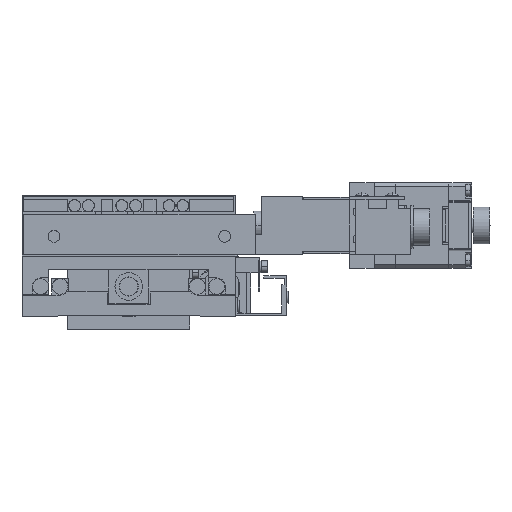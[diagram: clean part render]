
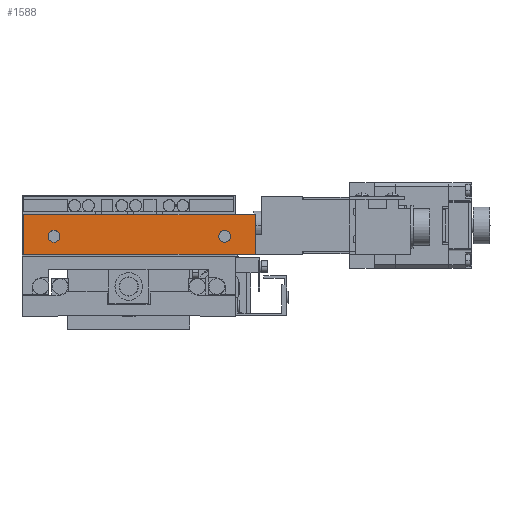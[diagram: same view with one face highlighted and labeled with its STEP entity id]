
A CAD part, left-side view. The second image highlights one B-rep face of the part: STEP entity #1588.
In plain terms, the highlighted planar face has unit normal (-1, 0, 0).
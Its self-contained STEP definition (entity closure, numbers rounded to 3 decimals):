
#1588=ADVANCED_FACE('',(#4048,#4049,#4050),#4051,.F.);
#4048=FACE_BOUND('',#6882,.T.);
#4049=FACE_BOUND('',#6883,.T.);
#4050=FACE_OUTER_BOUND('',#6884,.T.);
#4051=PLANE('',#6885);
#6882=EDGE_LOOP('',(#15496,#15497));
#6883=EDGE_LOOP('',(#15498,#15499));
#6884=EDGE_LOOP('',(#15500,#15501,#15502,#15503));
#6885=AXIS2_PLACEMENT_3D('',#15504,#15505,#15506);
#15496=ORIENTED_EDGE('',*,*,#20727,.T.);
#15497=ORIENTED_EDGE('',*,*,#20689,.T.);
#15498=ORIENTED_EDGE('',*,*,#20728,.T.);
#15499=ORIENTED_EDGE('',*,*,#20693,.T.);
#15500=ORIENTED_EDGE('',*,*,#20709,.T.);
#15501=ORIENTED_EDGE('',*,*,#20729,.F.);
#15502=ORIENTED_EDGE('',*,*,#20714,.F.);
#15503=ORIENTED_EDGE('',*,*,#20725,.T.);
#15504=CARTESIAN_POINT('',(-51.8,-41.5,33.5));
#15505=DIRECTION('',(1.0,0.,0.));
#15506=DIRECTION('',(0.,0.,-1.0));
#20689=EDGE_CURVE('',#25594,#25598,#25600,.T.);
#20693=EDGE_CURVE('',#25602,#25606,#25608,.T.);
#20709=EDGE_CURVE('',#25618,#25638,#25640,.T.);
#20714=EDGE_CURVE('',#25646,#25648,#25649,.T.);
#20725=EDGE_CURVE('',#25646,#25618,#25669,.T.);
#20727=EDGE_CURVE('',#25598,#25594,#25671,.T.);
#20728=EDGE_CURVE('',#25606,#25602,#25672,.T.);
#20729=EDGE_CURVE('',#25648,#25638,#25673,.T.);
#25594=VERTEX_POINT('',#32690);
#25598=VERTEX_POINT('',#32695);
#25600=CIRCLE('',#32698,1.95);
#25602=VERTEX_POINT('',#32700);
#25606=VERTEX_POINT('',#32705);
#25608=CIRCLE('',#32708,1.95);
#25618=VERTEX_POINT('',#32720);
#25638=VERTEX_POINT('',#32750);
#25640=LINE('',#32753,#32754);
#25646=VERTEX_POINT('',#32760);
#25648=VERTEX_POINT('',#32763);
#25649=LINE('',#32764,#32765);
#25669=LINE('',#32795,#32796);
#25671=CIRCLE('',#32799,1.95);
#25672=CIRCLE('',#32800,1.95);
#25673=LINE('',#32801,#32802);
#32690=CARTESIAN_POINT('',(-51.8,22.55,26.5));
#32695=CARTESIAN_POINT('',(-51.8,26.45,26.5));
#32698=AXIS2_PLACEMENT_3D('',#38963,#38964,#38965);
#32700=CARTESIAN_POINT('',(-51.8,-33.45,26.5));
#32705=CARTESIAN_POINT('',(-51.8,-29.55,26.5));
#32708=AXIS2_PLACEMENT_3D('',#38971,#38972,#38973);
#32720=CARTESIAN_POINT('',(-51.8,34.5,33.5));
#32750=CARTESIAN_POINT('',(-51.8,34.5,20.5));
#32753=CARTESIAN_POINT('',(-51.8,34.5,33.5));
#32754=VECTOR('',#38993,1000.0);
#32760=CARTESIAN_POINT('',(-51.8,-41.5,33.5));
#32763=CARTESIAN_POINT('',(-51.8,-41.5,20.5));
#32764=CARTESIAN_POINT('',(-51.8,-41.5,33.5));
#32765=VECTOR('',#39004,1000.0);
#32795=CARTESIAN_POINT('',(-51.8,-41.5,33.5));
#32796=VECTOR('',#39015,1000.0);
#32799=AXIS2_PLACEMENT_3D('',#39017,#39018,#39019);
#32800=AXIS2_PLACEMENT_3D('',#39020,#39021,#39022);
#32801=CARTESIAN_POINT('',(-51.8,-41.5,20.5));
#32802=VECTOR('',#39023,1000.0);
#38963=CARTESIAN_POINT('',(-51.8,24.5,26.5));
#38964=DIRECTION('',(1.0,0.,0.));
#38965=DIRECTION('',(0.,1.0,0.));
#38971=CARTESIAN_POINT('',(-51.8,-31.5,26.5));
#38972=DIRECTION('',(1.0,0.,0.));
#38973=DIRECTION('',(0.,1.0,0.));
#38993=DIRECTION('',(0.,0.,-1.0));
#39004=DIRECTION('',(0.,0.,-1.0));
#39015=DIRECTION('',(0.,1.0,0.0));
#39017=CARTESIAN_POINT('',(-51.8,24.5,26.5));
#39018=DIRECTION('',(1.0,0.,0.));
#39019=DIRECTION('',(0.,1.0,0.));
#39020=CARTESIAN_POINT('',(-51.8,-31.5,26.5));
#39021=DIRECTION('',(1.0,0.,0.));
#39022=DIRECTION('',(0.,1.0,0.));
#39023=DIRECTION('',(0.,1.0,0.0));
